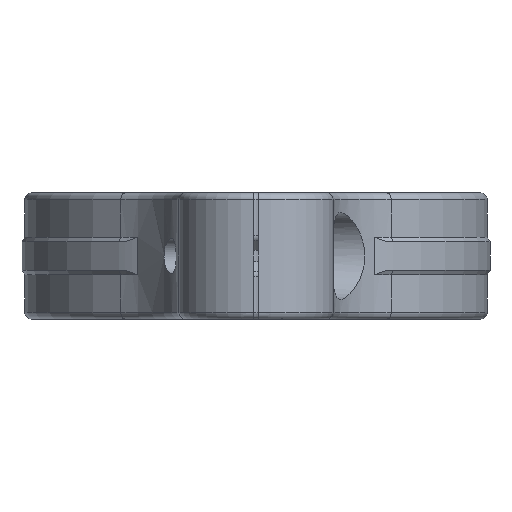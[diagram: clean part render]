
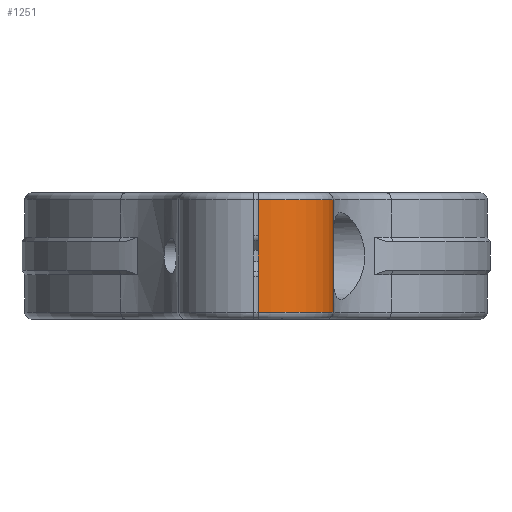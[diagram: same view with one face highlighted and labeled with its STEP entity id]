
A CAD part, front view. The second image highlights one B-rep face of the part: STEP entity #1251.
In plain terms, the highlighted cylindrical face has radius 5.5 mm (diameter 11 mm), a partial arc.
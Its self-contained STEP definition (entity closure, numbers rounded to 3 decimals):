
#8 = DIRECTION ( 'NONE',  ( 1., 0., 0. ) ) ;
#9 = DIRECTION ( 'NONE',  ( 0., 0., 1. ) ) ;
#230 = ORIENTED_EDGE ( 'NONE', *, *, #3128, .T. ) ;
#359 = ORIENTED_EDGE ( 'NONE', *, *, #3180, .F. ) ;
#384 = ORIENTED_EDGE ( 'NONE', *, *, #3181, .T. ) ;
#452 = CARTESIAN_POINT ( 'NONE',  ( 0.15, -28.998, 8.5 ) ) ;
#457 = CARTESIAN_POINT ( 'NONE',  ( 5.5, -23.5, 8.5 ) ) ;
#538 = ORIENTED_EDGE ( 'NONE', *, *, #3179, .T. ) ;
#844 = VERTEX_POINT ( 'NONE', #457 ) ;
#851 = VERTEX_POINT ( 'NONE', #452 ) ;
#910 = VERTEX_POINT ( 'NONE', #1518 ) ;
#936 = VERTEX_POINT ( 'NONE', #1493 ) ;
#1140 = CARTESIAN_POINT ( 'NONE',  ( 0., -23.5, 9. ) ) ;
#1146 = DIRECTION ( 'NONE',  ( 0., 0., -1. ) ) ;
#1150 = DIRECTION ( 'NONE',  ( -1., 0., 0. ) ) ;
#1251 = ADVANCED_FACE ( 'NONE', ( #3618 ), #3633, .T. ) ;
#1351 = CIRCLE ( 'NONE', #2330, 5.5 ) ;
#1372 = CIRCLE ( 'NONE', #2342, 5.5 ) ;
#1485 = CARTESIAN_POINT ( 'NONE',  ( 0., -23.5, 0.5 ) ) ;
#1493 = CARTESIAN_POINT ( 'NONE',  ( 5.5, -23.5, 0.5 ) ) ;
#1518 = CARTESIAN_POINT ( 'NONE',  ( 0.15, -28.998, 0.5 ) ) ;
#2330 = AXIS2_PLACEMENT_3D ( 'NONE', #1485, #9, #8 ) ;
#2342 = AXIS2_PLACEMENT_3D ( 'NONE', #2624, #2637, #2638 ) ;
#2374 = VECTOR ( 'NONE', #2633, 1000. ) ;
#2386 = VECTOR ( 'NONE', #2636, 1000. ) ;
#2624 = CARTESIAN_POINT ( 'NONE',  ( 0., -23.5, 8.5 ) ) ;
#2631 = LINE ( 'NONE', #2632, #2374 ) ;
#2632 = CARTESIAN_POINT ( 'NONE',  ( 0.15, -28.998, 9. ) ) ;
#2633 = DIRECTION ( 'NONE',  ( 0., 0., -1. ) ) ;
#2634 = LINE ( 'NONE', #2635, #2386 ) ;
#2635 = CARTESIAN_POINT ( 'NONE',  ( 5.5, -23.5, 9. ) ) ;
#2636 = DIRECTION ( 'NONE',  ( 0., 0., -1. ) ) ;
#2637 = DIRECTION ( 'NONE',  ( 0., 0., -1. ) ) ;
#2638 = DIRECTION ( 'NONE',  ( 1., 0., 0. ) ) ;
#3128 = EDGE_CURVE ( 'NONE', #910, #936, #1351, .T. ) ;
#3179 = EDGE_CURVE ( 'NONE', #851, #910, #2631, .T. ) ;
#3180 = EDGE_CURVE ( 'NONE', #844, #936, #2634, .T. ) ;
#3181 = EDGE_CURVE ( 'NONE', #844, #851, #1372, .T. ) ;
#3548 = AXIS2_PLACEMENT_3D ( 'NONE', #1140, #1146, #1150 ) ;
#3618 = FACE_OUTER_BOUND ( 'NONE', #3783, .T. ) ;
#3633 = CYLINDRICAL_SURFACE ( 'NONE', #3548, 5.5 ) ;
#3783 = EDGE_LOOP ( 'NONE', ( #538, #230, #359, #384 ) ) ;
